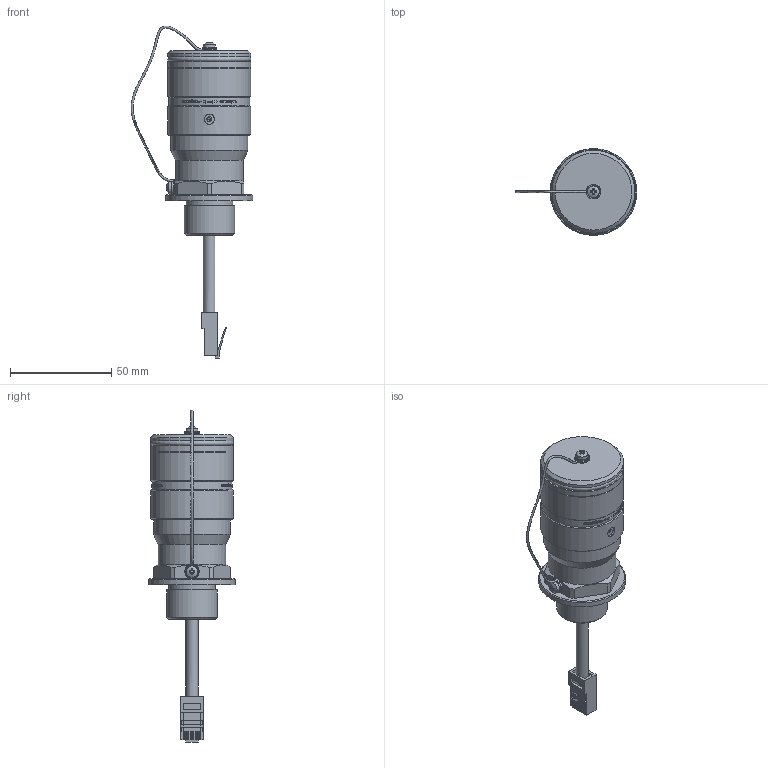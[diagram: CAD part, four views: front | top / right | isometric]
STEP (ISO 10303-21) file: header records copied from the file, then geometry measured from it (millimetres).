
FILE_DESCRIPTION((''),'2;1');
FILE_NAME('\\192.168.5.25\cortem_klient\База 3D и BIM моделей\Типовые\STP\Вилки и разъемы\РГМК, ВГМК, РГМКВ, ВГМКВ\ВГМКВ-Ethernet-9-2M_М3.stp','2024-10-16T11:11:20',('K.S.Bezzubikov'),(''),'Autodesk Inventor 2012','Autodesk Inventor 2012','');
FILE_SCHEMA(('AUTOMOTIVE_DESIGN { 1 0 10303 214 1 1 1 1 }'));
Length unit declared in the file: millimetre
Products named in the file (1): ВГМКВ-Ethernet-9-2M_М3_Внешний контур_1
Bounding box: 60.22 x 43 x 164.22 mm (x, y, z)
Volume: 68656.7 mm3; surface area: 45847.8 mm2
Topology: 8 solids, 10 shells, 1943 faces, 5285 edges, 3476 vertices
Faces by surface type: plane 1303, bspline 253, cylinder 232, cone 96, torus 39, sphere 20
Full cylindrical faces by diameter (mm): 1 x8, 1.03 x8, 1.2 x8, 1.5 x1, 2 x9, 2.03 x1, 2.1 x8, 2.459 x2, 2.5 x5, 2.7 x8, 2.75 x2, 3 x6, 3.1 x1, 3.2 x2, 3.5 x2, 4.1 x1, 5 x2, 6 x1, 7 x1, 10 x1, 15.1 x1, 15.6 x1, 15.8 x1, 18 x1, 18.8 x1, 19 x1, 22.9 x2, 23 x1, 25 x2, 26.4 x1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
Entity records: 64961 total; most frequent: CARTESIAN_POINT 17664, ORIENTED_EDGE 9924, DIRECTION 8607, EDGE_CURVE 4962, VECTOR 3459, LINE 3459, VERTEX_POINT 3384, AXIS2_PLACEMENT_3D 2574
